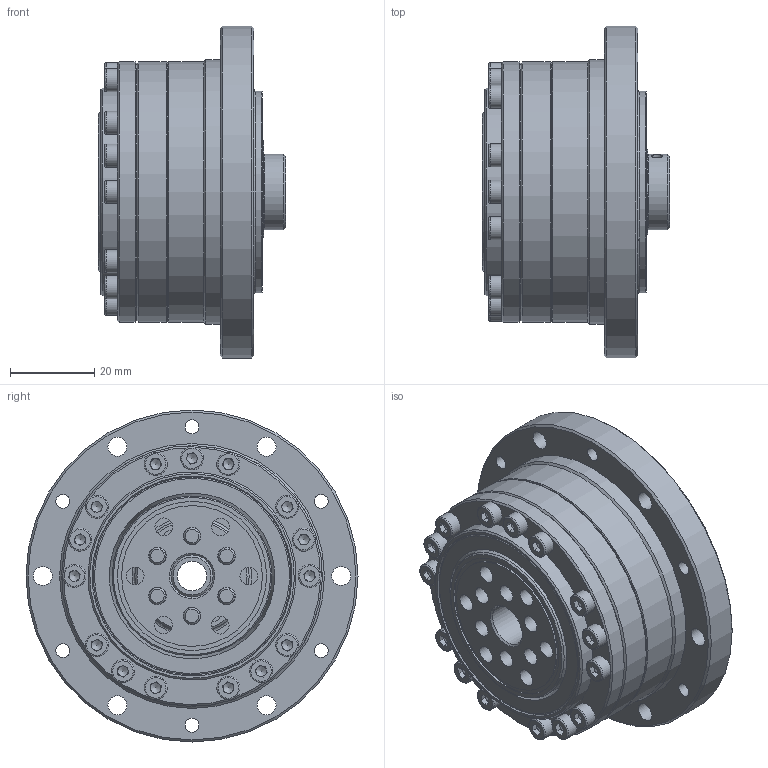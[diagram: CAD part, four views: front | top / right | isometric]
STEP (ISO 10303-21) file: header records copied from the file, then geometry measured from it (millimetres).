
FILE_DESCRIPTION (( 'STEP AP203' ), '1' );
FILE_NAME ('LCSG-17-XXX-C-II-S0.STEP', '2025-01-20T01:51:40', ( '' ), ( '' ), 'SwSTEP 2.0', 'SolidWorks 2023', '' );
FILE_SCHEMA (( 'CONFIG_CONTROL_DESIGN' ));
Length unit declared in the file: metre
Products named in the file (1): LCSG-17-XXX-C-II-S0
Bounding box: 44.5 x 79 x 79 mm (x, y, z)
Volume: 92122.9 mm3; surface area: 72547.1 mm2
Topology: 59 solids, 59 shells, 882 faces, 2053 edges, 1292 vertices
Faces by surface type: plane 455, cylinder 248, bspline 90, cone 89
Full cylindrical faces by diameter (mm): 1.7 x2, 2.5 x17, 3 x19, 3.3 x8, 3.5 x25, 4 x6, 4.2 x12, 4.5 x6, 5.5 x27, 7 x7, 10 x3, 11 x1, 17 x1, 18 x2, 18.5 x3, 20 x2, 27.2 x1, 27.5 x2, 28 x1, 29 x2, 30.2 x1, 30.298 x1, 32.5 x1, 32.53 x2, 33.23 x1, 33.5 x1, 35.5 x1, 37 x1, 38 x1, 38.1 x1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
Entity records: 30845 total; most frequent: CARTESIAN_POINT 12728, DIRECTION 3838, ORIENTED_EDGE 3080, AXIS2_PLACEMENT_3D 1577, EDGE_CURVE 1540, EDGE_LOOP 1436, VERTEX_POINT 1150, FACE_OUTER_BOUND 1118
